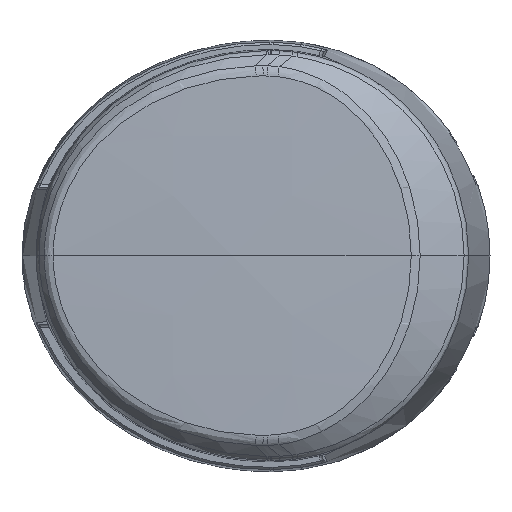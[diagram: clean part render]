
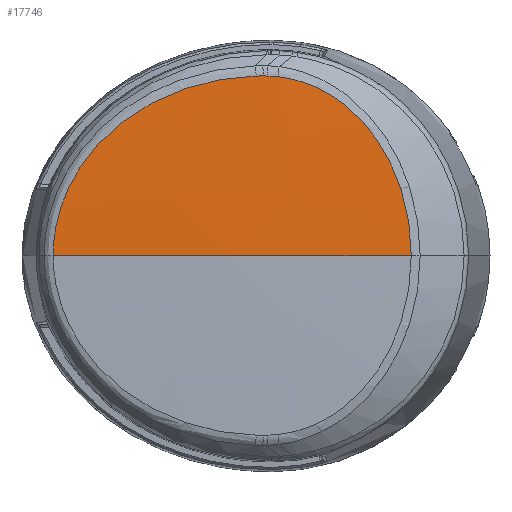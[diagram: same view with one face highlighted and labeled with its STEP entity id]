
A CAD part, top view. The second image highlights one B-rep face of the part: STEP entity #17746.
In plain terms, the highlighted free-form (B-spline) face has degree [3, 3] with [4, 4] control points.
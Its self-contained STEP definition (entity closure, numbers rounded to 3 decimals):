
#7649=CARTESIAN_POINT('Vertex',(14.244,0.,29.151)) ;
#7897=CARTESIAN_POINT('Control Point',(14.244,0.,29.151)) ;
#7898=CARTESIAN_POINT('Control Point',(-2.026,0.,30.761)) ;
#7899=CARTESIAN_POINT('Control Point',(-18.365,0.,31.713)) ;
#7900=CARTESIAN_POINT('Control Point',(-34.708,0.,32.004)) ;
#7901=CARTESIAN_POINT('Vertex',(-34.708,0.,32.004)) ;
#17423=CARTESIAN_POINT('Control Point',(14.244,0.,29.151)) ;
#17424=CARTESIAN_POINT('Control Point',(14.244,0.01,29.151)) ;
#17425=CARTESIAN_POINT('Control Point',(14.244,0.02,29.151)) ;
#17426=CARTESIAN_POINT('Control Point',(14.244,0.03,29.151)) ;
#17427=CARTESIAN_POINT('Control Point',(14.241,2.425,29.151)) ;
#17428=CARTESIAN_POINT('Control Point',(14.001,4.819,29.166)) ;
#17429=CARTESIAN_POINT('Control Point',(13.529,7.171,29.196)) ;
#17430=CARTESIAN_POINT('Control Point',(12.416,10.75,29.268)) ;
#17431=CARTESIAN_POINT('Control Point',(10.727,14.047,29.377)) ;
#17432=CARTESIAN_POINT('Control Point',(10.041,15.195,29.421)) ;
#17433=CARTESIAN_POINT('Control Point',(8.57,17.312,29.516)) ;
#17434=CARTESIAN_POINT('Control Point',(6.835,19.186,29.628)) ;
#17435=CARTESIAN_POINT('Control Point',(5.936,20.027,29.686)) ;
#17436=CARTESIAN_POINT('Control Point',(4.074,21.523,29.807)) ;
#17437=CARTESIAN_POINT('Control Point',(2.024,22.702,29.941)) ;
#17438=CARTESIAN_POINT('Control Point',(0.984,23.195,30.008)) ;
#17439=CARTESIAN_POINT('Control Point',(-0.548,23.773,30.109)) ;
#17440=CARTESIAN_POINT('Control Point',(-2.138,24.162,30.213)) ;
#17441=CARTESIAN_POINT('Control Point',(-2.62,24.262,30.244)) ;
#17442=CARTESIAN_POINT('Control Point',(-3.14,24.35,30.278)) ;
#17443=CARTESIAN_POINT('Control Point',(-3.664,24.417,30.313)) ;
#17444=CARTESIAN_POINT('Control Point',(-3.699,24.421,30.315)) ;
#17445=CARTESIAN_POINT('Control Point',(-3.766,24.429,30.319)) ;
#17446=CARTESIAN_POINT('Control Point',(-3.832,24.437,30.324)) ;
#17447=CARTESIAN_POINT('Control Point',(-3.881,24.443,30.327)) ;
#17448=CARTESIAN_POINT('Control Point',(-3.912,24.446,30.329)) ;
#17449=CARTESIAN_POINT('Control Point',(-3.944,24.45,30.331)) ;
#17450=CARTESIAN_POINT('Vertex',(-3.944,24.45,30.331)) ;
#17554=CARTESIAN_POINT('Control Point',(-3.944,24.45,30.331)) ;
#17555=CARTESIAN_POINT('Control Point',(-3.946,24.45,30.331)) ;
#17556=CARTESIAN_POINT('Control Point',(-3.948,24.45,30.331)) ;
#17557=CARTESIAN_POINT('Control Point',(-3.949,24.45,30.332)) ;
#17558=CARTESIAN_POINT('Control Point',(-4.225,24.481,30.35)) ;
#17559=CARTESIAN_POINT('Control Point',(-4.502,24.505,30.368)) ;
#17560=CARTESIAN_POINT('Control Point',(-4.779,24.524,30.386)) ;
#17561=CARTESIAN_POINT('Control Point',(-5.06,24.538,30.404)) ;
#17562=CARTESIAN_POINT('Control Point',(-5.342,24.546,30.423)) ;
#17563=CARTESIAN_POINT('Control Point',(-5.346,24.546,30.423)) ;
#17564=CARTESIAN_POINT('Control Point',(-5.35,24.547,30.423)) ;
#17565=CARTESIAN_POINT('Control Point',(-5.355,24.547,30.424)) ;
#17566=CARTESIAN_POINT('Vertex',(-5.355,24.547,30.424)) ;
#17680=CARTESIAN_POINT('Control Point',(14.244,0.,29.151)) ;
#17681=CARTESIAN_POINT('Control Point',(-2.025,0.,30.76)) ;
#17682=CARTESIAN_POINT('Control Point',(-18.369,0.,31.713)) ;
#17683=CARTESIAN_POINT('Control Point',(-34.708,0.,32.004)) ;
#17684=CARTESIAN_POINT('Control Point',(14.244,8.171,29.151)) ;
#17685=CARTESIAN_POINT('Control Point',(-2.025,8.187,30.76)) ;
#17686=CARTESIAN_POINT('Control Point',(-18.369,8.195,31.713)) ;
#17687=CARTESIAN_POINT('Control Point',(-34.708,8.198,32.004)) ;
#17688=CARTESIAN_POINT('Control Point',(14.244,16.343,29.036)) ;
#17689=CARTESIAN_POINT('Control Point',(-2.025,16.373,30.645)) ;
#17690=CARTESIAN_POINT('Control Point',(-18.369,16.391,31.597)) ;
#17691=CARTESIAN_POINT('Control Point',(-34.708,16.396,31.888)) ;
#17692=CARTESIAN_POINT('Control Point',(14.244,24.511,28.805)) ;
#17693=CARTESIAN_POINT('Control Point',(-2.025,24.557,30.414)) ;
#17694=CARTESIAN_POINT('Control Point',(-18.369,24.583,31.366)) ;
#17695=CARTESIAN_POINT('Control Point',(-34.708,24.592,31.656)) ;
#17697=CARTESIAN_POINT('Control Point',(-6.011,24.558,30.467)) ;
#17698=CARTESIAN_POINT('Control Point',(-5.792,24.557,30.452)) ;
#17699=CARTESIAN_POINT('Control Point',(-5.574,24.553,30.438)) ;
#17700=CARTESIAN_POINT('Control Point',(-5.355,24.547,30.424)) ;
#17701=CARTESIAN_POINT('Vertex',(-6.011,24.558,30.467)) ;
#17705=CARTESIAN_POINT('Control Point',(-6.011,24.558,30.467)) ;
#17706=CARTESIAN_POINT('Control Point',(-6.332,24.56,30.487)) ;
#17707=CARTESIAN_POINT('Control Point',(-6.654,24.557,30.508)) ;
#17708=CARTESIAN_POINT('Control Point',(-6.974,24.548,30.529)) ;
#17709=CARTESIAN_POINT('Vertex',(-6.974,24.548,30.529)) ;
#17713=CARTESIAN_POINT('Control Point',(-6.974,24.548,30.529)) ;
#17714=CARTESIAN_POINT('Control Point',(-7.355,24.538,30.553)) ;
#17715=CARTESIAN_POINT('Control Point',(-7.735,24.523,30.578)) ;
#17716=CARTESIAN_POINT('Control Point',(-8.116,24.502,30.602)) ;
#17717=CARTESIAN_POINT('Control Point',(-9.446,24.41,30.686)) ;
#17718=CARTESIAN_POINT('Control Point',(-10.773,24.252,30.768)) ;
#17719=CARTESIAN_POINT('Control Point',(-11.718,24.104,30.826)) ;
#17720=CARTESIAN_POINT('Control Point',(-13.975,23.667,30.961)) ;
#17721=CARTESIAN_POINT('Control Point',(-16.197,23.029,31.089)) ;
#17722=CARTESIAN_POINT('Control Point',(-17.475,22.587,31.161)) ;
#17723=CARTESIAN_POINT('Control Point',(-20.078,21.526,31.304)) ;
#17724=CARTESIAN_POINT('Control Point',(-22.546,20.168,31.434)) ;
#17725=CARTESIAN_POINT('Control Point',(-23.781,19.385,31.497)) ;
#17726=CARTESIAN_POINT('Control Point',(-26.49,17.41,31.633)) ;
#17727=CARTESIAN_POINT('Control Point',(-28.858,15.048,31.745)) ;
#17728=CARTESIAN_POINT('Control Point',(-30.064,13.602,31.801)) ;
#17729=CARTESIAN_POINT('Control Point',(-31.992,10.774,31.887)) ;
#17730=CARTESIAN_POINT('Control Point',(-33.353,7.699,31.946)) ;
#17731=CARTESIAN_POINT('Control Point',(-33.845,6.266,31.967)) ;
#17732=CARTESIAN_POINT('Control Point',(-34.373,4.149,31.99)) ;
#17733=CARTESIAN_POINT('Control Point',(-34.629,2.007,32.)) ;
#17734=CARTESIAN_POINT('Control Point',(-34.682,1.336,32.003)) ;
#17735=CARTESIAN_POINT('Control Point',(-34.708,0.669,32.004)) ;
#17736=CARTESIAN_POINT('Control Point',(-34.708,0.,32.004)) ;
#17739=ORIENTED_EDGE('',*,*,#17452,.F.) ;
#17740=ORIENTED_EDGE('',*,*,#17568,.F.) ;
#17741=ORIENTED_EDGE('',*,*,#17703,.F.) ;
#17742=ORIENTED_EDGE('',*,*,#17711,.F.) ;
#17743=ORIENTED_EDGE('',*,*,#17737,.F.) ;
#17744=ORIENTED_EDGE('',*,*,#7903,.F.) ;
#17746=ADVANCED_FACE('Body.COVER',(#17745),#17679,.T.) ;
#7896=B_SPLINE_CURVE_WITH_KNOTS('',3,(#7897,#7898,#7899,#7900),.UNSPECIFIED.,.F.,.U.,(4,4),(0.,69.359),.UNSPECIFIED.) ;
#17422=B_SPLINE_CURVE_WITH_KNOTS('',5,(#17423,#17424,#17425,#17426,#17427,#17428,#17429,#17430,#17431,#17432,#17433,#17434,#17435,#17436,#17437,#17438,#17439,#17440,#17441,#17442,#17443,#17444,#17445,#17446,#17447,#17448,#17449),.UNSPECIFIED.,.F.,.U.,(6,3,3,3,3,3,3,3,6),(54.399,54.488,75.754,87.816,99.118,109.885,114.496,114.826,115.124),.UNSPECIFIED.) ;
#17553=B_SPLINE_CURVE_WITH_KNOTS('',5,(#17554,#17555,#17556,#17557,#17558,#17559,#17560,#17561,#17562,#17563,#17564,#17565),.UNSPECIFIED.,.F.,.U.,(6,3,3,6),(48.937,48.953,51.52,51.561),.UNSPECIFIED.) ;
#17696=B_SPLINE_CURVE_WITH_KNOTS('',3,(#17697,#17698,#17699,#17700),.UNSPECIFIED.,.F.,.U.,(4,4),(0.,1.183),.UNSPECIFIED.) ;
#17704=B_SPLINE_CURVE_WITH_KNOTS('',3,(#17705,#17706,#17707,#17708),.UNSPECIFIED.,.F.,.U.,(4,4),(0.,1.74),.UNSPECIFIED.) ;
#17712=B_SPLINE_CURVE_WITH_KNOTS('',5,(#17713,#17714,#17715,#17716,#17717,#17718,#17719,#17720,#17721,#17722,#17723,#17724,#17725,#17726,#17727,#17728,#17729,#17730,#17731,#17732,#17733,#17734,#17735,#17736),.UNSPECIFIED.,.F.,.U.,(6,3,3,3,3,3,3,6),(1.738,5.168,13.724,25.709,38.597,55.292,69.197,75.485),.UNSPECIFIED.) ;
#17679=B_SPLINE_SURFACE_WITH_KNOTS('',3,3,((#17680,#17681,#17682,#17683),(#17684,#17685,#17686,#17687),(#17688,#17689,#17690,#17691),(#17692,#17693,#17694,#17695)),.UNSPECIFIED.,.F.,.F.,.U.,(4,4),(4,4),(49.737,74.287),(893.37,942.41),.UNSPECIFIED.) ;
#7903=EDGE_CURVE('',#7650,#7902,#7896,.T.) ;
#17452=EDGE_CURVE('',#17451,#7650,#17422,.F.) ;
#17568=EDGE_CURVE('',#17567,#17451,#17553,.F.) ;
#17703=EDGE_CURVE('',#17702,#17567,#17696,.T.) ;
#17711=EDGE_CURVE('',#17710,#17702,#17704,.F.) ;
#17737=EDGE_CURVE('',#7902,#17710,#17712,.F.) ;
#17738=EDGE_LOOP('',(#17739,#17740,#17741,#17742,#17743,#17744)) ;
#17745=FACE_OUTER_BOUND('',#17738,.T.) ;
#7650=VERTEX_POINT('',#7649) ;
#7902=VERTEX_POINT('',#7901) ;
#17451=VERTEX_POINT('',#17450) ;
#17567=VERTEX_POINT('',#17566) ;
#17702=VERTEX_POINT('',#17701) ;
#17710=VERTEX_POINT('',#17709) ;
